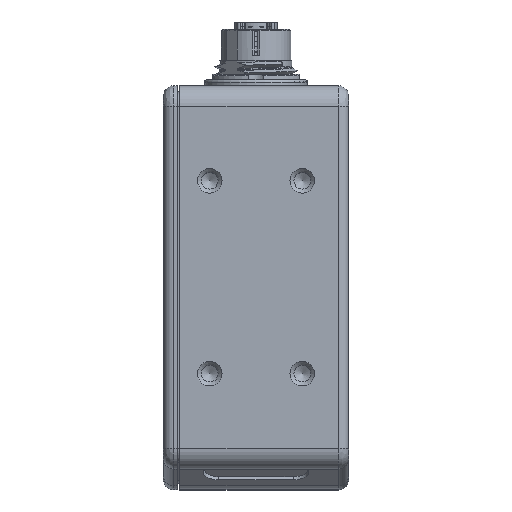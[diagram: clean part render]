
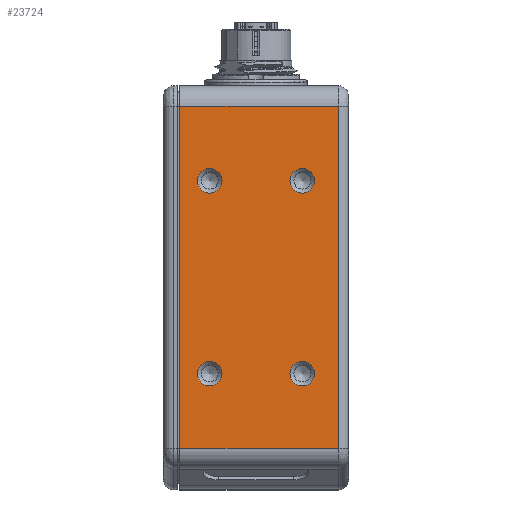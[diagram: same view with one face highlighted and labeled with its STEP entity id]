
A CAD part, top view. The second image highlights one B-rep face of the part: STEP entity #23724.
In plain terms, the highlighted planar face has unit normal (0, 0, 1).
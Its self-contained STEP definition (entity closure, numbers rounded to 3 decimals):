
#1113=FACE_BOUND('',#3346,.T.);
#1114=FACE_BOUND('',#3347,.T.);
#1115=FACE_BOUND('',#3348,.T.);
#1116=FACE_BOUND('',#3349,.T.);
#1300=PLANE('',#25114);
#2026=FACE_OUTER_BOUND('',#3345,.T.);
#3345=EDGE_LOOP('',(#15601,#15602,#15603,#15604));
#3346=EDGE_LOOP('',(#15605,#15606));
#3347=EDGE_LOOP('',(#15607,#15608));
#3348=EDGE_LOOP('',(#15609,#15610));
#3349=EDGE_LOOP('',(#15611,#15612));
#4833=LINE('',#33869,#6803);
#4834=LINE('',#33872,#6804);
#4835=LINE('',#33874,#6805);
#4836=LINE('',#33875,#6806);
#6803=VECTOR('',#27375,10.);
#6804=VECTOR('',#27378,10.);
#6805=VECTOR('',#27379,10.);
#6806=VECTOR('',#27380,10.);
#8766=CIRCLE('',#25115,2.4);
#8767=CIRCLE('',#25116,2.4);
#8768=CIRCLE('',#25117,2.4);
#8769=CIRCLE('',#25118,2.4);
#8770=CIRCLE('',#25119,2.4);
#8771=CIRCLE('',#25120,2.4);
#8772=CIRCLE('',#25121,2.4);
#8773=CIRCLE('',#25122,2.4);
#9748=VERTEX_POINT('',#33863);
#9750=VERTEX_POINT('',#33867);
#9751=VERTEX_POINT('',#33871);
#9752=VERTEX_POINT('',#33873);
#9753=VERTEX_POINT('',#33876);
#9754=VERTEX_POINT('',#33877);
#9755=VERTEX_POINT('',#33880);
#9756=VERTEX_POINT('',#33881);
#9757=VERTEX_POINT('',#33884);
#9758=VERTEX_POINT('',#33885);
#9759=VERTEX_POINT('',#33888);
#9760=VERTEX_POINT('',#33889);
#12096=EDGE_CURVE('',#9750,#9748,#4833,.T.);
#12097=EDGE_CURVE('',#9748,#9751,#4834,.T.);
#12098=EDGE_CURVE('',#9752,#9750,#4835,.T.);
#12099=EDGE_CURVE('',#9751,#9752,#4836,.T.);
#12100=EDGE_CURVE('',#9753,#9754,#8766,.T.);
#12101=EDGE_CURVE('',#9754,#9753,#8767,.T.);
#12102=EDGE_CURVE('',#9755,#9756,#8768,.T.);
#12103=EDGE_CURVE('',#9756,#9755,#8769,.T.);
#12104=EDGE_CURVE('',#9757,#9758,#8770,.T.);
#12105=EDGE_CURVE('',#9758,#9757,#8771,.T.);
#12106=EDGE_CURVE('',#9759,#9760,#8772,.T.);
#12107=EDGE_CURVE('',#9760,#9759,#8773,.T.);
#15601=ORIENTED_EDGE('',*,*,#12097,.F.);
#15602=ORIENTED_EDGE('',*,*,#12096,.F.);
#15603=ORIENTED_EDGE('',*,*,#12098,.F.);
#15604=ORIENTED_EDGE('',*,*,#12099,.F.);
#15605=ORIENTED_EDGE('',*,*,#12100,.T.);
#15606=ORIENTED_EDGE('',*,*,#12101,.T.);
#15607=ORIENTED_EDGE('',*,*,#12102,.T.);
#15608=ORIENTED_EDGE('',*,*,#12103,.T.);
#15609=ORIENTED_EDGE('',*,*,#12104,.T.);
#15610=ORIENTED_EDGE('',*,*,#12105,.T.);
#15611=ORIENTED_EDGE('',*,*,#12106,.T.);
#15612=ORIENTED_EDGE('',*,*,#12107,.T.);
#23724=ADVANCED_FACE('',(#2026,#1113,#1114,#1115,#1116),#1300,.T.);
#25114=AXIS2_PLACEMENT_3D('',#33870,#27376,#27377);
#25115=AXIS2_PLACEMENT_3D('',#33878,#27381,#27382);
#25116=AXIS2_PLACEMENT_3D('',#33879,#27383,#27384);
#25117=AXIS2_PLACEMENT_3D('',#33882,#27385,#27386);
#25118=AXIS2_PLACEMENT_3D('',#33883,#27387,#27388);
#25119=AXIS2_PLACEMENT_3D('',#33886,#27389,#27390);
#25120=AXIS2_PLACEMENT_3D('',#33887,#27391,#27392);
#25121=AXIS2_PLACEMENT_3D('',#33890,#27393,#27394);
#25122=AXIS2_PLACEMENT_3D('',#33891,#27395,#27396);
#27375=DIRECTION('',(1.,0.,0.));
#27376=DIRECTION('center_axis',(0.,0.,
1.));
#27377=DIRECTION('ref_axis',(0.,1.,0.));
#27378=DIRECTION('',(0.,-1.,0.));
#27379=DIRECTION('',(0.,1.,0.));
#27380=DIRECTION('',(-1.,0.,0.));
#27381=DIRECTION('center_axis',(0.,0.,
-1.));
#27382=DIRECTION('ref_axis',(1.,0.,0.));
#27383=DIRECTION('center_axis',(0.,0.,
-1.));
#27384=DIRECTION('ref_axis',(1.,0.,0.));
#27385=DIRECTION('center_axis',(0.,0.,
-1.));
#27386=DIRECTION('ref_axis',(1.,0.,0.));
#27387=DIRECTION('center_axis',(0.,0.,
-1.));
#27388=DIRECTION('ref_axis',(1.,0.,0.));
#27389=DIRECTION('center_axis',(0.,0.,
-1.));
#27390=DIRECTION('ref_axis',(1.,0.,0.));
#27391=DIRECTION('center_axis',(0.,0.,
-1.));
#27392=DIRECTION('ref_axis',(1.,0.,0.));
#27393=DIRECTION('center_axis',(0.,0.,
-1.));
#27394=DIRECTION('ref_axis',(1.,0.,0.));
#27395=DIRECTION('center_axis',(0.,0.,
-1.));
#27396=DIRECTION('ref_axis',(1.,0.,0.));
#33863=CARTESIAN_POINT('',(16.,129.75,19.75));
#33867=CARTESIAN_POINT('',(-14.8,129.75,19.75));
#33869=CARTESIAN_POINT('',(18.,129.75,19.75));
#33870=CARTESIAN_POINT('Origin',(18.,59.25,19.75));
#33871=CARTESIAN_POINT('',(16.,63.25,19.75));
#33872=CARTESIAN_POINT('',(16.,76.38,19.75));
#33873=CARTESIAN_POINT('',(-14.8,63.25,19.75));
#33874=CARTESIAN_POINT('',(-14.8,63.25,19.75));
#33875=CARTESIAN_POINT('',(18.,63.25,19.75));
#33876=CARTESIAN_POINT('',(-6.6,77.75,19.75));
#33877=CARTESIAN_POINT('',(-11.4,77.75,19.75));
#33878=CARTESIAN_POINT('Origin',(-9.,77.75,19.75));
#33879=CARTESIAN_POINT('Origin',(-9.,77.75,19.75));
#33880=CARTESIAN_POINT('',(-6.6,115.25,19.75));
#33881=CARTESIAN_POINT('',(-11.4,115.25,19.75));
#33882=CARTESIAN_POINT('Origin',(-9.,115.25,19.75));
#33883=CARTESIAN_POINT('Origin',(-9.,115.25,19.75));
#33884=CARTESIAN_POINT('',(11.4,115.25,19.75));
#33885=CARTESIAN_POINT('',(6.6,115.25,19.75));
#33886=CARTESIAN_POINT('Origin',(9.,115.25,19.75));
#33887=CARTESIAN_POINT('Origin',(9.,115.25,19.75));
#33888=CARTESIAN_POINT('',(11.4,77.75,19.75));
#33889=CARTESIAN_POINT('',(6.6,77.75,19.75));
#33890=CARTESIAN_POINT('Origin',(9.,77.75,19.75));
#33891=CARTESIAN_POINT('Origin',(9.,77.75,19.75));
